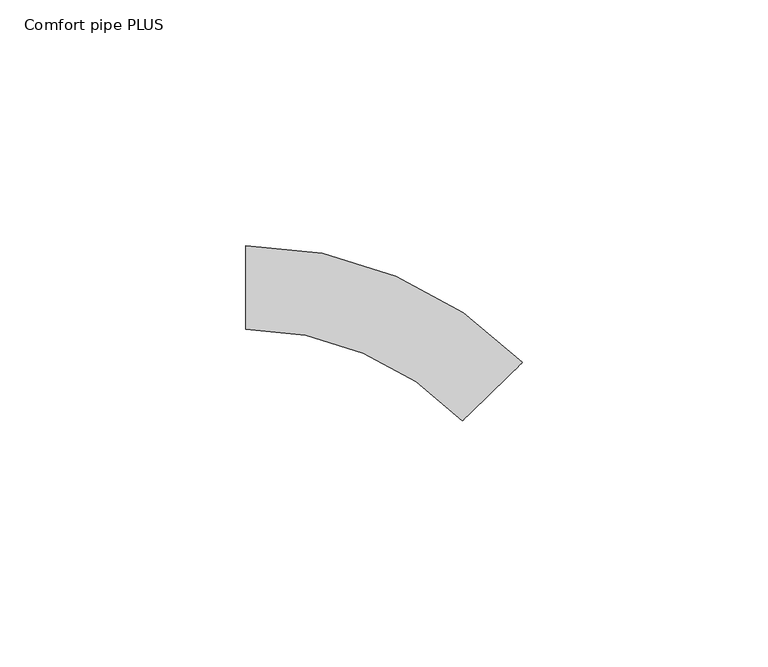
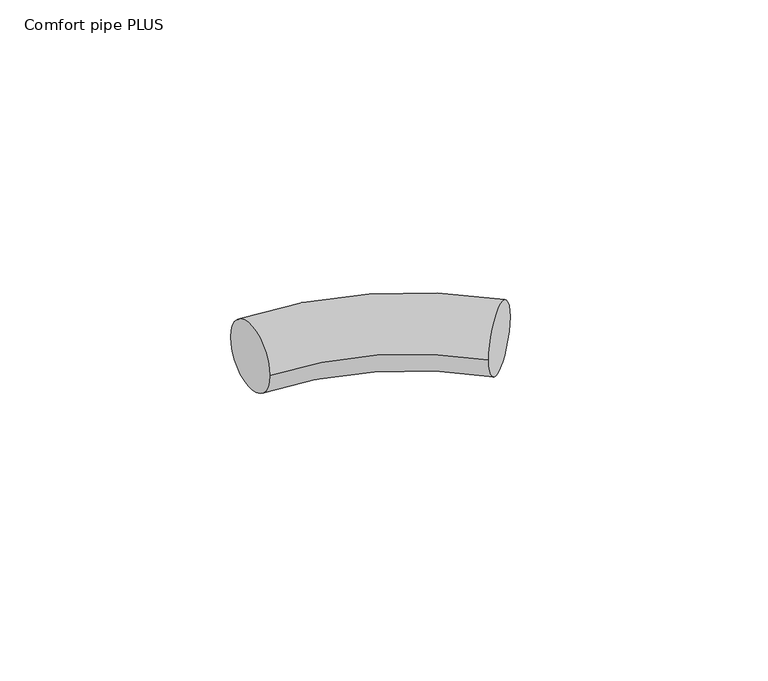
"""IFC4 building model written with IfcOpenShell, lengths in millimetres: pipe fitting geometry, 400_5-_Uponor_curved_Elbow : Comfort pipe PLUS."""

from ifc_helpers import new_model, si_unit, point, frame, origin, place, context, project, spatial, circle_curve, ellipse_curve, trimmed, source, transform, mapped, element, save
from ifc_brep_helpers import plane_surface, revolved_surface, advanced_brep


def comfort_pipe_plus_f781b332(model_context):
    return source(origin(), model_context, "Body", "AdvancedBrep", [
        advanced_brep(
        [(-29.5418794, 8.5, 0.0), (-29.5418794, -8.5, 0.0), (26.699391, -15.2353261, 0.0), (14.5197528, -27.0951918, 0.0)],
        [
            (0, 1, circle_curve(frame((-29.5418794, 0.0, 0.0), z_axis=(-1.0, 0.0, 0.0), x_axis=(0.0, -1.0, 0.0)), 8.5)),
            (1, 0, circle_curve(frame((-29.5418794, 0.0, 0.0), z_axis=(-1.0, 0.0, 0.0), x_axis=(0.0, -1.0, 0.0)), 8.5)),
            (2, 3, circle_curve(frame((20.6095719, -21.165259, 0.0), z_axis=(0.697639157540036, -0.7164493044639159, 0.0), x_axis=(-0.7164493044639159, -0.697639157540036, 0.0)), 8.5)),
            (3, 2, circle_curve(frame((20.6095719, -21.165259, 0.0), z_axis=(0.697639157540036, -0.7164493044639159, 0.0), x_axis=(-0.7164493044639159, -0.697639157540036, 0.0)), 8.5)),
            (2, 0, circle_curve(frame((-29.5418794, -70.0, 0.0), z_axis=(0.0, 0.0, 1.0), x_axis=(0.0, 1.0, 0.0)), 78.5)),
            (1, 3, circle_curve(frame((-29.5418794, -70.0, 0.0), z_axis=(0.0, 0.0, -1.0), x_axis=(0.0, 1.0, 0.0)), 61.5)),
        ],
        [
            plane_surface(frame((-29.5418794, 0.0, 0.0), z_axis=(-1.0, 0.0, 0.0), x_axis=(0.0, 0.0, 1.0))),
            plane_surface(frame((20.6095719, -21.165259, 0.0), z_axis=(0.697639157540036, -0.7164493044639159, 0.0), x_axis=(0.0, 0.0, 1.0))),
            revolved_surface(trimmed(ellipse_curve(frame((-29.5418794, 0.0, 0.0), z_axis=(1.0, 0.0, 0.0), x_axis=(0.0, -1.0, 0.0)), 8.5, 8.5), [point((-29.5418794, 8.5, 0.0))], [point((-29.5418794, -8.5, 0.0))], True, "CARTESIAN"), (-29.5418794, -70.0, 0.0), (0.0, 0.0, 1.0)),
            revolved_surface(trimmed(ellipse_curve(frame((-29.5418794, 0.0, 0.0), z_axis=(1.0, 0.0, 0.0), x_axis=(0.0, -1.0, 0.0)), 8.5, 8.5), [point((-29.5418794, -8.5, 0.0))], [point((-29.5418794, 8.5, 0.0))], True, "CARTESIAN"), (-29.5418794, -70.0, 0.0), (0.0, 0.0, 1.0)),
        ],
        [
            (0, [[1, 2]]),
            (1, [[3, 4]]),
            (2, [[-3, 5, -2, 6]]),
            (3, [[-4, -6, -1, -5]]),
        ],
    ),
    ])


if __name__ == "__main__":
    model = new_model("IFC4")
    model_context = context("Model", 3, world=origin())
    ifc_project = project(units=[si_unit("LENGTHUNIT", "METRE", prefix="MILLI")], contexts=[model_context])
    site = spatial("IfcSite", under=ifc_project)
    building = spatial("IfcBuilding", under=site)
    placement = place(None, origin())
    comfort_pipe_plus_shape = comfort_pipe_plus_f781b332(model_context)
    element("IfcPipeFitting", 1, ObjectType="400_5-_Uponor_curved_Elbow : Comfort pipe PLUS", at=placement, inside=building, context=model_context, shape_type="MappedRepresentation", body=[
        mapped(comfort_pipe_plus_shape, transform((0.0, 0.0, 0.0), x_axis=(1.0, 0.0, 0.0), y_axis=(0.0, 1.0, 0.0), z_axis=(0.0, 0.0, 1.0))),
    ])
    save(model, "model.ifc")
